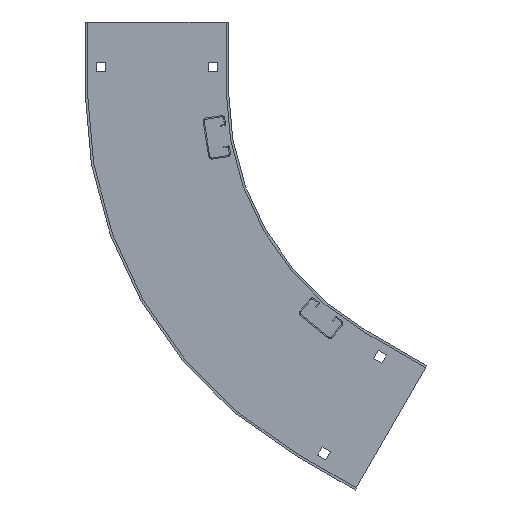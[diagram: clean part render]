
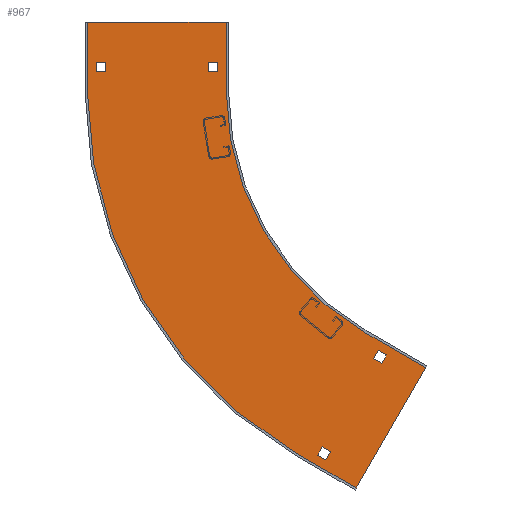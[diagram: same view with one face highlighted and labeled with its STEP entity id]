
A CAD part, left-side view. The second image highlights one B-rep face of the part: STEP entity #967.
In plain terms, the highlighted planar face has unit normal (-1, 0, 0) as drawn and (1, 0, 0) by its records, which use the part's own axes.
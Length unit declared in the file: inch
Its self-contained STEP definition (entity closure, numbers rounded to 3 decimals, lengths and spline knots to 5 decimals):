
#9=DIRECTION('',(0.,1.,0.));
#10=VECTOR('',#9,6.02);
#11=CARTESIAN_POINT('',(0.1,0.1,0.));
#12=LINE('',#11,#10);
#194=DIRECTION('',(0.,0.,1.));
#195=VECTOR('',#194,3.);
#196=CARTESIAN_POINT('',(0.1,6.12,0.));
#197=LINE('',#196,#195);
#198=DIRECTION('',(0.,0.,1.));
#199=VECTOR('',#198,3.);
#200=CARTESIAN_POINT('',(0.1,0.1,0.));
#201=LINE('',#200,#199);
#202=CARTESIAN_POINT('',(0.1,-12.,3.));
#203=DIRECTION('',(1.,0.,0.));
#204=DIRECTION('',(0.,1.,0.));
#205=AXIS2_PLACEMENT_3D('',#202,#203,#204);
#207=DIRECTION('',(0.,-0.866,0.5));
#208=VECTOR('',#207,3.);
#209=CARTESIAN_POINT('',(0.1,-5.95,13.47891));
#210=LINE('',#209,#208);
#211=DIRECTION('',(0.,1.,0.));
#212=VECTOR('',#211,0.41);
#213=CARTESIAN_POINT('',(0.1,0.477,1.755));
#214=LINE('',#213,#212);
#215=DIRECTION('',(0.,0.,1.));
#216=VECTOR('',#215,0.41);
#217=CARTESIAN_POINT('',(0.1,0.887,1.755));
#218=LINE('',#217,#216);
#219=DIRECTION('',(0.,-1.,0.));
#220=VECTOR('',#219,0.41);
#221=CARTESIAN_POINT('',(0.1,0.887,2.165));
#222=LINE('',#221,#220);
#223=DIRECTION('',(0.,0.,-1.));
#224=VECTOR('',#223,0.41);
#225=CARTESIAN_POINT('',(0.1,0.477,2.165));
#226=LINE('',#225,#224);
#227=DIRECTION('',(0.,1.,0.));
#228=VECTOR('',#227,0.41);
#229=CARTESIAN_POINT('',(0.1,5.312,1.755));
#230=LINE('',#229,#228);
#231=DIRECTION('',(0.,0.,1.));
#232=VECTOR('',#231,0.41);
#233=CARTESIAN_POINT('',(0.1,5.722,1.755));
#234=LINE('',#233,#232);
#235=DIRECTION('',(0.,-1.,0.));
#236=VECTOR('',#235,0.41);
#237=CARTESIAN_POINT('',(0.1,5.722,2.165));
#238=LINE('',#237,#236);
#239=DIRECTION('',(0.,0.,-1.));
#240=VECTOR('',#239,0.41);
#241=CARTESIAN_POINT('',(0.1,5.312,2.165));
#242=LINE('',#241,#240);
#243=DIRECTION('',(0.,0.866,-0.5));
#244=VECTOR('',#243,0.41);
#245=CARTESIAN_POINT('',(0.1,-6.8397,14.4279));
#246=LINE('',#245,#244);
#247=DIRECTION('',(0.,0.5,0.866));
#248=VECTOR('',#247,0.41);
#249=CARTESIAN_POINT('',(0.1,-6.48463,14.2229));
#250=LINE('',#249,#248);
#251=DIRECTION('',(0.,-0.866,0.5));
#252=VECTOR('',#251,0.41);
#253=CARTESIAN_POINT('',(0.1,-6.27963,14.57797));
#254=LINE('',#253,#252);
#255=DIRECTION('',(0.,-0.5,-0.866));
#256=VECTOR('',#255,0.41);
#257=CARTESIAN_POINT('',(0.1,-6.6347,14.78297));
#258=LINE('',#257,#256);
#259=DIRECTION('',(0.,0.866,-0.5));
#260=VECTOR('',#259,0.41);
#261=CARTESIAN_POINT('',(0.1,-4.4222,18.61513));
#262=LINE('',#261,#260);
#263=DIRECTION('',(0.,0.5,0.866));
#264=VECTOR('',#263,0.41);
#265=CARTESIAN_POINT('',(0.1,-4.06713,18.41013));
#266=LINE('',#265,#264);
#267=DIRECTION('',(0.,-0.866,0.5));
#268=VECTOR('',#267,0.41);
#269=CARTESIAN_POINT('',(0.1,-3.86213,18.7652));
#270=LINE('',#269,#268);
#271=DIRECTION('',(0.,-0.5,-0.866));
#272=VECTOR('',#271,0.41);
#273=CARTESIAN_POINT('',(0.1,-4.2172,18.9702));
#274=LINE('',#273,#272);
#336=DIRECTION('',(0.,0.5,0.866));
#337=VECTOR('',#336,6.02);
#338=CARTESIAN_POINT('',(0.1,-8.54808,14.97891));
#339=LINE('',#338,#337);
#416=DIRECTION('',(0.,-0.866,0.5));
#417=VECTOR('',#416,3.);
#418=CARTESIAN_POINT('',(0.1,-2.94,18.69238));
#419=LINE('',#418,#417);
#424=CARTESIAN_POINT('',(0.1,-12.,3.));
#425=DIRECTION('',(1.,0.,0.));
#426=DIRECTION('',(0.,1.,0.));
#427=AXIS2_PLACEMENT_3D('',#424,#425,#426);
#497=CARTESIAN_POINT('',(0.1,0.1,0.));
#498=VERTEX_POINT('',#497);
#499=CARTESIAN_POINT('',(0.1,6.12,0.));
#500=VERTEX_POINT('',#499);
#518=CARTESIAN_POINT('',(0.1,0.1,3.));
#520=VERTEX_POINT('',#518);
#521=CARTESIAN_POINT('',(0.1,6.12,3.));
#523=VERTEX_POINT('',#521);
#542=CARTESIAN_POINT('',(0.1,-5.95,13.47891));
#544=VERTEX_POINT('',#542);
#545=CARTESIAN_POINT('',(0.1,-2.94,18.69238));
#547=VERTEX_POINT('',#545);
#569=CARTESIAN_POINT('',(0.1,-8.54808,14.97891));
#570=VERTEX_POINT('',#569);
#571=CARTESIAN_POINT('',(0.1,-5.53808,20.19238));
#572=VERTEX_POINT('',#571);
#589=CARTESIAN_POINT('',(0.1,0.477,1.755));
#590=CARTESIAN_POINT('',(0.1,0.887,1.755));
#591=VERTEX_POINT('',#589);
#592=VERTEX_POINT('',#590);
#593=CARTESIAN_POINT('',(0.1,0.887,2.165));
#594=VERTEX_POINT('',#593);
#595=CARTESIAN_POINT('',(0.1,0.477,2.165));
#596=VERTEX_POINT('',#595);
#597=CARTESIAN_POINT('',(0.1,5.312,1.755));
#598=CARTESIAN_POINT('',(0.1,5.722,1.755));
#599=VERTEX_POINT('',#597);
#600=VERTEX_POINT('',#598);
#601=CARTESIAN_POINT('',(0.1,5.722,2.165));
#602=VERTEX_POINT('',#601);
#603=CARTESIAN_POINT('',(0.1,5.312,2.165));
#604=VERTEX_POINT('',#603);
#621=CARTESIAN_POINT('',(0.1,-6.8397,14.4279));
#622=CARTESIAN_POINT('',(0.1,-6.48463,14.2229));
#623=VERTEX_POINT('',#621);
#624=VERTEX_POINT('',#622);
#625=CARTESIAN_POINT('',(0.1,-6.27963,14.57797));
#626=VERTEX_POINT('',#625);
#627=CARTESIAN_POINT('',(0.1,-6.6347,14.78297));
#628=VERTEX_POINT('',#627);
#629=CARTESIAN_POINT('',(0.1,-4.4222,18.61513));
#630=CARTESIAN_POINT('',(0.1,-4.06713,18.41013));
#631=VERTEX_POINT('',#629);
#632=VERTEX_POINT('',#630);
#633=CARTESIAN_POINT('',(0.1,-3.86213,18.7652));
#634=VERTEX_POINT('',#633);
#635=CARTESIAN_POINT('',(0.1,-4.2172,18.9702));
#636=VERTEX_POINT('',#635);
#906=CARTESIAN_POINT('',(0.1,0.1,0.));
#907=DIRECTION('',(1.,0.,0.));
#908=DIRECTION('',(0.,1.,0.));
#909=AXIS2_PLACEMENT_3D('',#906,#907,#908);
#910=PLANE('',#909);
#911=ORIENTED_EDGE('',*,*,#662,.F.);
#913=ORIENTED_EDGE('',*,*,#912,.T.);
#915=ORIENTED_EDGE('',*,*,#914,.T.);
#917=ORIENTED_EDGE('',*,*,#916,.T.);
#919=ORIENTED_EDGE('',*,*,#918,.T.);
#921=ORIENTED_EDGE('',*,*,#920,.F.);
#923=ORIENTED_EDGE('',*,*,#922,.F.);
#924=ORIENTED_EDGE('',*,*,#898,.F.);
#925=EDGE_LOOP('',(#911,#913,#915,#917,#919,#921,#923,#924));
#926=FACE_OUTER_BOUND('',#925,.F.);
#928=ORIENTED_EDGE('',*,*,#927,.T.);
#930=ORIENTED_EDGE('',*,*,#929,.T.);
#932=ORIENTED_EDGE('',*,*,#931,.T.);
#934=ORIENTED_EDGE('',*,*,#933,.T.);
#935=EDGE_LOOP('',(#928,#930,#932,#934));
#936=FACE_BOUND('',#935,.F.);
#938=ORIENTED_EDGE('',*,*,#937,.T.);
#940=ORIENTED_EDGE('',*,*,#939,.T.);
#942=ORIENTED_EDGE('',*,*,#941,.T.);
#944=ORIENTED_EDGE('',*,*,#943,.T.);
#945=EDGE_LOOP('',(#938,#940,#942,#944));
#946=FACE_BOUND('',#945,.F.);
#948=ORIENTED_EDGE('',*,*,#947,.T.);
#950=ORIENTED_EDGE('',*,*,#949,.T.);
#952=ORIENTED_EDGE('',*,*,#951,.T.);
#954=ORIENTED_EDGE('',*,*,#953,.T.);
#955=EDGE_LOOP('',(#948,#950,#952,#954));
#956=FACE_BOUND('',#955,.F.);
#958=ORIENTED_EDGE('',*,*,#957,.T.);
#960=ORIENTED_EDGE('',*,*,#959,.T.);
#962=ORIENTED_EDGE('',*,*,#961,.T.);
#964=ORIENTED_EDGE('',*,*,#963,.T.);
#965=EDGE_LOOP('',(#958,#960,#962,#964));
#966=FACE_BOUND('',#965,.F.);
#967=ADVANCED_FACE('',(#926,#936,#946,#956,#966),#910,.T.);
#206=CIRCLE('',#205,12.1);
#428=CIRCLE('',#427,18.12);
#662=EDGE_CURVE('',#498,#500,#12,.T.);
#898=EDGE_CURVE('',#500,#523,#197,.T.);
#912=EDGE_CURVE('',#498,#520,#201,.T.);
#914=EDGE_CURVE('',#520,#544,#206,.T.);
#916=EDGE_CURVE('',#544,#570,#210,.T.);
#918=EDGE_CURVE('',#570,#572,#339,.T.);
#920=EDGE_CURVE('',#547,#572,#419,.T.);
#922=EDGE_CURVE('',#523,#547,#428,.T.);
#927=EDGE_CURVE('',#591,#592,#214,.T.);
#929=EDGE_CURVE('',#592,#594,#218,.T.);
#931=EDGE_CURVE('',#594,#596,#222,.T.);
#933=EDGE_CURVE('',#596,#591,#226,.T.);
#937=EDGE_CURVE('',#599,#600,#230,.T.);
#939=EDGE_CURVE('',#600,#602,#234,.T.);
#941=EDGE_CURVE('',#602,#604,#238,.T.);
#943=EDGE_CURVE('',#604,#599,#242,.T.);
#947=EDGE_CURVE('',#623,#624,#246,.T.);
#949=EDGE_CURVE('',#624,#626,#250,.T.);
#951=EDGE_CURVE('',#626,#628,#254,.T.);
#953=EDGE_CURVE('',#628,#623,#258,.T.);
#957=EDGE_CURVE('',#631,#632,#262,.T.);
#959=EDGE_CURVE('',#632,#634,#266,.T.);
#961=EDGE_CURVE('',#634,#636,#270,.T.);
#963=EDGE_CURVE('',#636,#631,#274,.T.);
